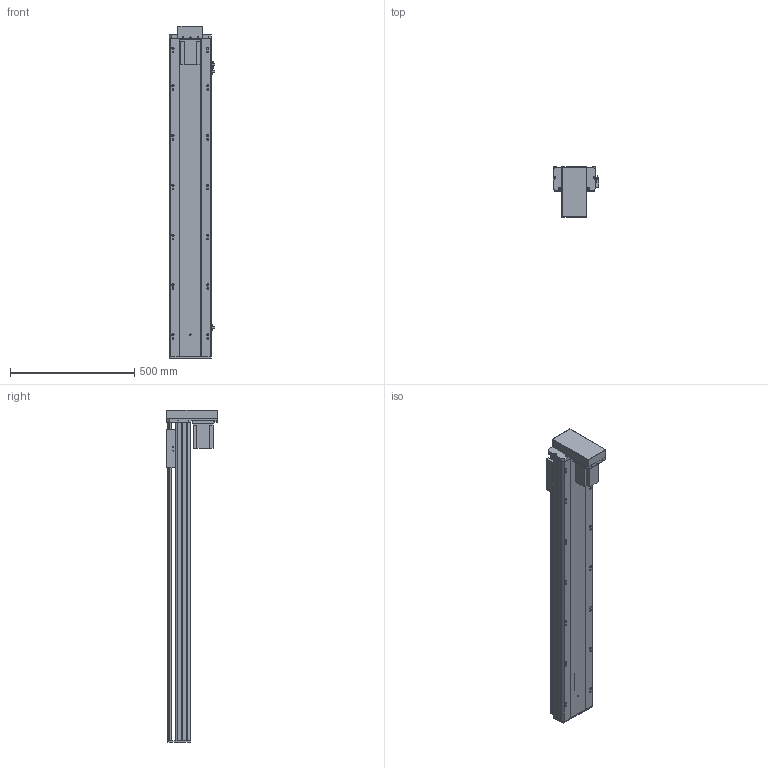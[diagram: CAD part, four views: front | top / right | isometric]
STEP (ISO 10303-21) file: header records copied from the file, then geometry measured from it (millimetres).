
FILE_DESCRIPTION (( 'STEP AP203' ), '1' );
FILE_NAME ('Y170-D10-S1050-BM-P750W.STEP', '2020-01-22T03:18:47', ( '微软用户' ), ( '微软中国' ), 'SwSTEP 2.0', 'SolidWorks 2017', '' );
FILE_SCHEMA (( 'CONFIG_CONTROL_DESIGN' ));
Length unit declared in the file: millimetre
Products named in the file (12): Y雄赽釱-耜蚾; Y170-陔遴奻裔-BR; 170-BM耜蚾蟀諉啣; Y170-BM--P750W楊擘啣; -BM俋袗; Y170耜裔--準---; YD-Y100-135-新外置传感挡片(通用）; 170--掛极-BR; Y100-135俋离換覜ん; 侂狟750W; Y170-D10-S1050-BM-P750W; EGH20賑輸_蕼偞
Assembly tree (14 placements, depth 2):
  Y170-D10-S1050-BM-P750W
    Y170耜裔--準---
    170--掛极-BR
    侂狟750W
    EGH20賑輸_蕼偞  x2
    Y雄赽釱-耜蚾
    Y170-陔遴奻裔-BR
    170-BM耜蚾蟀諉啣
    Y170-BM--P750W楊擘啣
    -BM俋袗
    YD-Y100-135-新外置传感挡片(通用）
    Y100-135俋离換覜ん  x3
Bounding box: 183.5 x 203.5 x 1333.5 mm (x, y, z)
Volume: 6244047.7 mm3; surface area: 2156320.8 mm2
Topology: 14 solids, 14 shells, 918 faces, 2604 edges, 1718 vertices
Faces by surface type: cylinder 466, plane 436, cone 16
Entity records: 29226 total; most frequent: CARTESIAN_POINT 5223, DIRECTION 4824, ORIENTED_EDGE 4704, EDGE_CURVE 2352, AXIS2_PLACEMENT_3D 1715, VERTEX_POINT 1562, VECTOR 1394, LINE 1394
